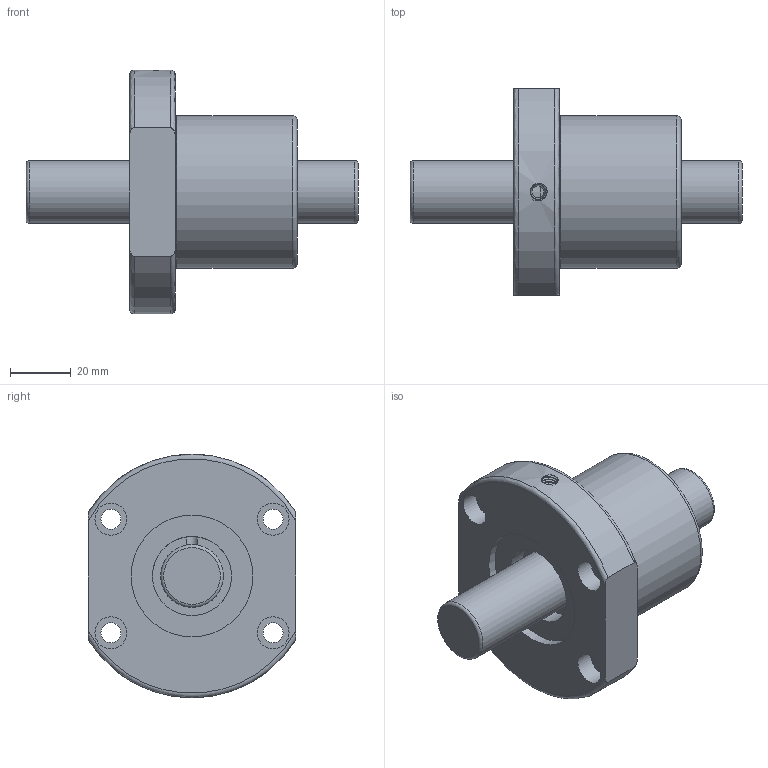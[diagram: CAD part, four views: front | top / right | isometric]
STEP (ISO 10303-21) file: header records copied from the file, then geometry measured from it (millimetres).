
FILE_DESCRIPTION(/* description */ ('Unknown','CAx-IF Rec.Pracs.---Representation and Presentation of Product Manufacturing Information (PMI)---4.0---2014-10-13','CAx-IF Rec.Pracs.---3D Tessellated Geometry---0.4---2014-09-14','2;1'),/* implementation_level */ '2;1');
FILE_NAME(/* name */ 'SFK2002',/* time_stamp */ '2020-12-06T16:07:29+08:00',/* author */ ('Unknown'),/* organization */ ('Unknown'),/* preprocessor_version */ 'ST-DEVELOPER v16.7',/* originating_system */ 'Solid Edge',/* authorisation */ 'Unknown');
FILE_SCHEMA (('AP242_MANAGED_MODEL_BASED_3D_ENGINEERING_MIM_LF { 1 0 10303 442 1 1 4 }'));
Length unit declared in the file: millimetre
Products named in the file (1): SFK2002
Bounding box: 109 x 68 x 80 mm (x, y, z)
Volume: 157621.4 mm3; surface area: 26626.3 mm2
Topology: 1 solids, 1 shells, 46 faces, 103 edges, 67 vertices
Faces by surface type: cylinder 19, plane 16, torus 8, bspline 2, cone 1
Full cylindrical faces by diameter (mm): 4 x1, 6.6 x4, 10.5 x4, 20.6 x2, 26 x2, 40 x1, 50 x1
Entity records: 3498 total; most frequent: CARTESIAN_POINT 2560, DIRECTION 192, ORIENTED_EDGE 152, AXIS2_PLACEMENT_3D 90, EDGE_LOOP 84, FACE_BOUND 84, EDGE_CURVE 76, VERTEX_POINT 60
